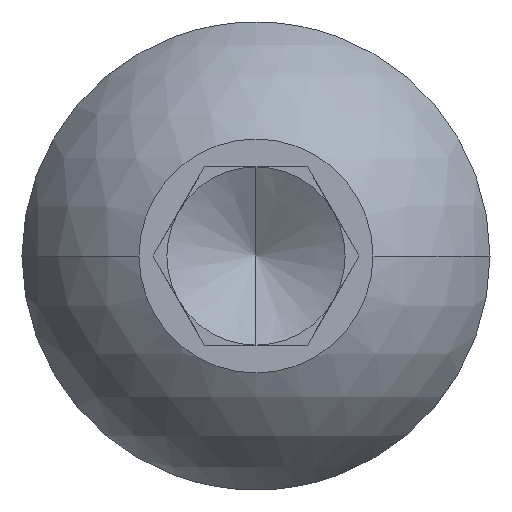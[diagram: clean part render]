
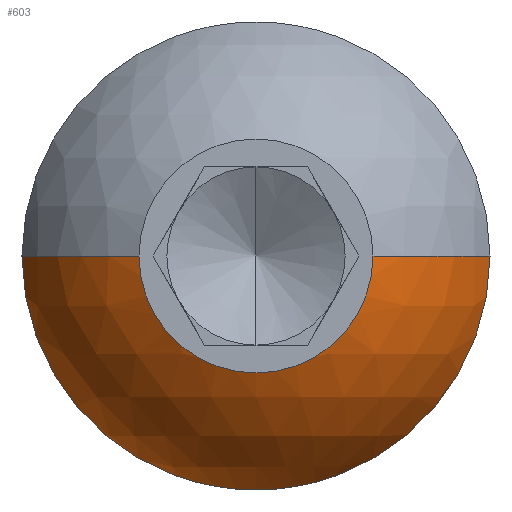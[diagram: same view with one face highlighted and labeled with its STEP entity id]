
A CAD part, left-side view. The second image highlights one B-rep face of the part: STEP entity #603.
In plain terms, the highlighted spherical face has radius 5.647 mm.
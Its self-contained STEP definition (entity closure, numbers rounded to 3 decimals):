
#11 = DIRECTION ( 'NONE',  ( 1., 0., 0. ) ) ;
#23 = EDGE_CURVE ( 'NONE', #4712, #2164, #6067, .T. ) ;
#93 = DIRECTION ( 'NONE',  ( 0., 0., -1. ) ) ;
#102 = DIRECTION ( 'NONE',  ( -1., 0., 0. ) ) ;
#202 = DIRECTION ( 'NONE',  ( 0., 1., 0. ) ) ;
#218 = ORIENTED_EDGE ( 'NONE', *, *, #23, .F. ) ;
#246 = CIRCLE ( 'NONE', #6440, 5.25 ) ;
#369 = DIRECTION ( 'NONE',  ( 0., 1., 0. ) ) ;
#410 = VERTEX_POINT ( 'NONE', #4702 ) ;
#603 = ADVANCED_FACE ( 'NONE', ( #4498 ), #5576, .T. ) ;
#673 = ORIENTED_EDGE ( 'NONE', *, *, #2156, .F. ) ;
#703 = DIRECTION ( 'NONE',  ( 0., 0., 1. ) ) ;
#1046 = DIRECTION ( 'NONE',  ( 0., 0., -1. ) ) ;
#1136 = DIRECTION ( 'NONE',  ( -1., 0., 0. ) ) ;
#1527 = ORIENTED_EDGE ( 'NONE', *, *, #4834, .T. ) ;
#1839 = CARTESIAN_POINT ( 'NONE',  ( 2.92, 5.25, 0. ) ) ;
#1902 = CARTESIAN_POINT ( 'NONE',  ( 5., 0., 0. ) ) ;
#1921 = DIRECTION ( 'NONE',  ( -1., 0., 0. ) ) ;
#1926 = AXIS2_PLACEMENT_3D ( 'NONE', #5208, #6976, #11 ) ;
#2156 = EDGE_CURVE ( 'NONE', #2164, #6335, #4627, .T. ) ;
#2164 = VERTEX_POINT ( 'NONE', #5853 ) ;
#2327 = CARTESIAN_POINT ( 'NONE',  ( 0., 0., 0. ) ) ;
#2365 = CARTESIAN_POINT ( 'NONE',  ( 2.92, 0., 0. ) ) ;
#2683 = VERTEX_POINT ( 'NONE', #6340 ) ;
#2953 = EDGE_CURVE ( 'NONE', #2683, #6335, #4171, .T. ) ;
#3371 = ORIENTED_EDGE ( 'NONE', *, *, #2953, .T. ) ;
#3728 = EDGE_LOOP ( 'NONE', ( #5286, #1527, #3371, #673, #218 ) ) ;
#4126 = DIRECTION ( 'NONE',  ( 0., 0., 1. ) ) ;
#4171 = CIRCLE ( 'NONE', #4815, 5.647 ) ;
#4498 = FACE_OUTER_BOUND ( 'NONE', #3728, .T. ) ;
#4582 = CARTESIAN_POINT ( 'NONE',  ( 0., -2.625, 0. ) ) ;
#4627 = CIRCLE ( 'NONE', #5607, 2.625 ) ;
#4702 = CARTESIAN_POINT ( 'NONE',  ( 2.92, 0., -5.25 ) ) ;
#4712 = VERTEX_POINT ( 'NONE', #1839 ) ;
#4815 = AXIS2_PLACEMENT_3D ( 'NONE', #1902, #93, #202 ) ;
#4834 = EDGE_CURVE ( 'NONE', #410, #2683, #246, .T. ) ;
#4856 = AXIS2_PLACEMENT_3D ( 'NONE', #2365, #1921, #4126 ) ;
#5208 = CARTESIAN_POINT ( 'NONE',  ( 5., 0., 0. ) ) ;
#5286 = ORIENTED_EDGE ( 'NONE', *, *, #6550, .T. ) ;
#5378 = CARTESIAN_POINT ( 'NONE',  ( 2.92, 0., 0. ) ) ;
#5576 = SPHERICAL_SURFACE ( 'NONE', #6198, 5.647 ) ;
#5607 = AXIS2_PLACEMENT_3D ( 'NONE', #2327, #1136, #5816 ) ;
#5816 = DIRECTION ( 'NONE',  ( 0., 0., 1. ) ) ;
#5853 = CARTESIAN_POINT ( 'NONE',  ( 0., 2.625, 0. ) ) ;
#6067 = CIRCLE ( 'NONE', #1926, 5.647 ) ;
#6198 = AXIS2_PLACEMENT_3D ( 'NONE', #7375, #1046, #369 ) ;
#6335 = VERTEX_POINT ( 'NONE', #4582 ) ;
#6340 = CARTESIAN_POINT ( 'NONE',  ( 2.92, -5.25, 0. ) ) ;
#6440 = AXIS2_PLACEMENT_3D ( 'NONE', #5378, #102, #703 ) ;
#6550 = EDGE_CURVE ( 'NONE', #4712, #410, #7059, .T. ) ;
#6976 = DIRECTION ( 'NONE',  ( 0., 0., 1. ) ) ;
#7059 = CIRCLE ( 'NONE', #4856, 5.25 ) ;
#7375 = CARTESIAN_POINT ( 'NONE',  ( 5., 0., 0. ) ) ;
